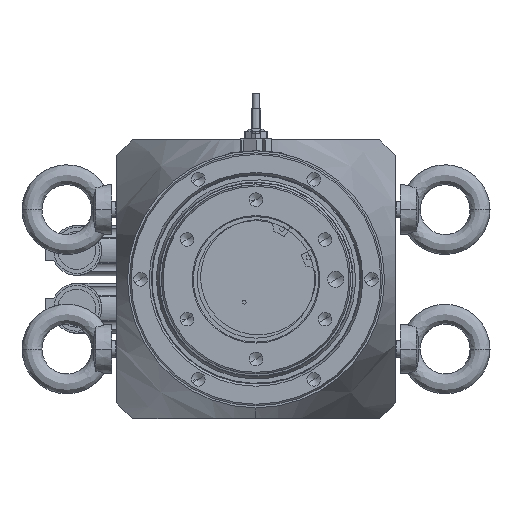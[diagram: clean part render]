
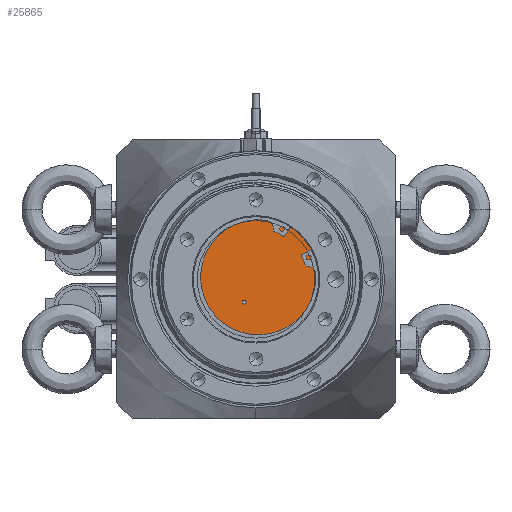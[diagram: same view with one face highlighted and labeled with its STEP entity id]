
A CAD part, front view. The second image highlights one B-rep face of the part: STEP entity #25865.
In plain terms, the highlighted planar face has unit normal (0, -1, 0).
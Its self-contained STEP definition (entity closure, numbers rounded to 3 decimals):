
#434 = DIRECTION ( 'NONE',  ( 0., 1., 0. ) ) ;
#741 = EDGE_CURVE ( 'NONE', #16139, #4349, #27886, .T. ) ;
#1068 = CARTESIAN_POINT ( 'NONE',  ( -90.78, -247.879, -79.25 ) ) ;
#1268 = AXIS2_PLACEMENT_3D ( 'NONE', #15085, #434, #5223 ) ;
#1491 = CIRCLE ( 'NONE', #30816, 1. ) ;
#1911 = FACE_OUTER_BOUND ( 'NONE', #25183, .T. ) ;
#2501 = CIRCLE ( 'NONE', #1268, 31.5 ) ;
#3458 = EDGE_CURVE ( 'NONE', #7483, #9024, #1491, .T. ) ;
#4273 = CARTESIAN_POINT ( 'NONE',  ( -69.407, -247.879, -74.925 ) ) ;
#4304 = AXIS2_PLACEMENT_3D ( 'NONE', #31284, #28735, #14152 ) ;
#4349 = VERTEX_POINT ( 'NONE', #1068 ) ;
#4431 = ORIENTED_EDGE ( 'NONE', *, *, #3458, .T. ) ;
#4970 = AXIS2_PLACEMENT_3D ( 'NONE', #30476, #6160, #11087 ) ;
#5223 = DIRECTION ( 'NONE',  ( 0.866, 0., 0.5 ) ) ;
#6135 = EDGE_CURVE ( 'NONE', #4349, #16139, #2501, .T. ) ;
#6160 = DIRECTION ( 'NONE',  ( 0., 1., 0. ) ) ;
#7483 = VERTEX_POINT ( 'NONE', #23068 ) ;
#8291 = ORIENTED_EDGE ( 'NONE', *, *, #6135, .F. ) ;
#8994 = ORIENTED_EDGE ( 'NONE', *, *, #741, .F. ) ;
#9024 = VERTEX_POINT ( 'NONE', #18550 ) ;
#10389 = DIRECTION ( 'NONE',  ( 0.866, 0., 0.5 ) ) ;
#11087 = DIRECTION ( 'NONE',  ( 0.866, 0., 0.5 ) ) ;
#11647 = DIRECTION ( 'NONE',  ( 0., 1., 0. ) ) ;
#14095 = DIRECTION ( 'NONE',  ( 0.866, 0., 0.5 ) ) ;
#14152 = DIRECTION ( 'NONE',  ( 0.866, 0., 0.5 ) ) ;
#15085 = CARTESIAN_POINT ( 'NONE',  ( -63.5, -247.879, -63.5 ) ) ;
#16139 = VERTEX_POINT ( 'NONE', #20889 ) ;
#17752 = PLANE ( 'NONE',  #17826 ) ;
#17826 = AXIS2_PLACEMENT_3D ( 'NONE', #22429, #25289, #10389 ) ;
#18550 = CARTESIAN_POINT ( 'NONE',  ( -68.541, -247.879, -74.425 ) ) ;
#18621 = CIRCLE ( 'NONE', #4970, 1. ) ;
#20889 = CARTESIAN_POINT ( 'NONE',  ( -36.22, -247.879, -47.75 ) ) ;
#21564 = EDGE_LOOP ( 'NONE', ( #4431, #29057 ) ) ;
#22429 = CARTESIAN_POINT ( 'NONE',  ( -63.5, -247.879, -63.5 ) ) ;
#23068 = CARTESIAN_POINT ( 'NONE',  ( -70.273, -247.879, -75.425 ) ) ;
#24021 = FACE_BOUND ( 'NONE', #21564, .T. ) ;
#25183 = EDGE_LOOP ( 'NONE', ( #8291, #8994 ) ) ;
#25289 = DIRECTION ( 'NONE',  ( 0., 1., 0. ) ) ;
#25865 = ADVANCED_FACE ( 'NONE', ( #1911, #24021 ), #17752, .F. ) ;
#26709 = EDGE_CURVE ( 'NONE', #9024, #7483, #18621, .T. ) ;
#27886 = CIRCLE ( 'NONE', #4304, 31.5 ) ;
#28735 = DIRECTION ( 'NONE',  ( 0., 1., 0. ) ) ;
#29057 = ORIENTED_EDGE ( 'NONE', *, *, #26709, .T. ) ;
#30476 = CARTESIAN_POINT ( 'NONE',  ( -69.407, -247.879, -74.925 ) ) ;
#30816 = AXIS2_PLACEMENT_3D ( 'NONE', #4273, #11647, #14095 ) ;
#31284 = CARTESIAN_POINT ( 'NONE',  ( -63.5, -247.879, -63.5 ) ) ;
